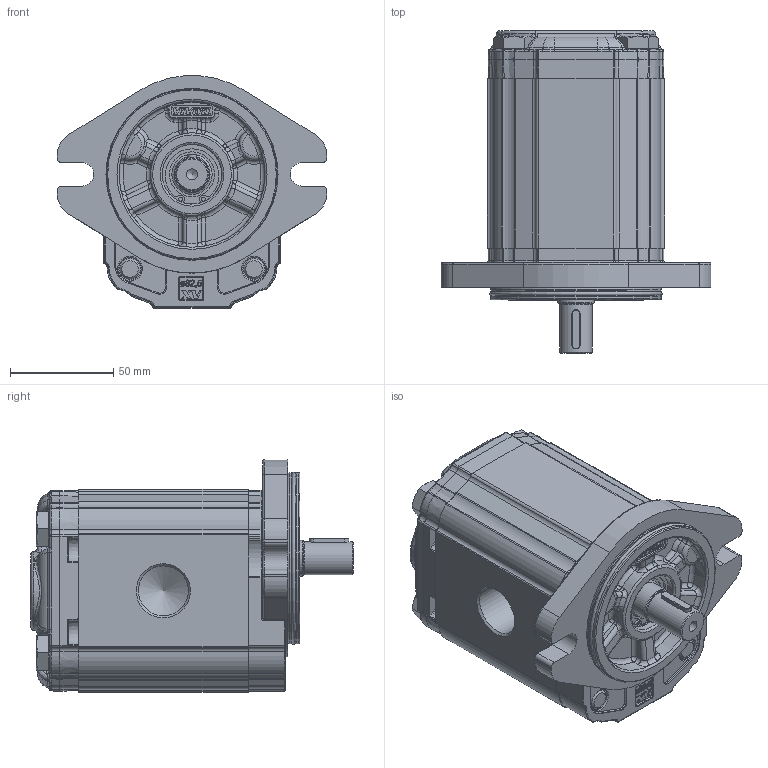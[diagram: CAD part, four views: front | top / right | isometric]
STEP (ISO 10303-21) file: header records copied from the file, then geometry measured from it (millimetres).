
FILE_DESCRIPTION(/* description */ ('Unknown'),/* implementation_level */ '2;1');
FILE_NAME(/* name */ 'X2P5751BDCA',/* time_stamp */ '2021-07-16T13:46:39+02:00',/* author */ ('Unknown'),/* organization */ ('Unknown'),/* preprocessor_version */ 'ST-DEVELOPER v16.7',/* originating_system */ 'Solid Edge',/* authorisation */ 'Unknown');
FILE_SCHEMA (('TECHNICAL_DATA_PACKAGING','AUTOMOTIVE_DESIGN {1 0 10303 214 3 1 1}'));
Products named in the file (5): X2P5751BDCA; X2P51; 2B; X2DCH82; XP219-A
Assembly tree (4 placements, depth 2):
  X2P5751BDCA
    X2P51
    2B
    X2DCH82
    XP219-A
Bounding box: 130.38 x 155.7 x 112.3 mm (x, y, z)
Volume: 898790.6 mm3; surface area: 125762 mm2
Topology: 4 solids, 6 shells, 2087 faces, 5121 edges, 3105 vertices
Faces by surface type: cylinder 623, plane 573, bspline 537, torus 243, cone 73, sphere 38
Full cylindrical faces by diameter (mm): 2 x2, 5.367 x1, 10 x4, 10.5 x4, 11 x6, 15.875 x1, 16 x4, 17.42 x1, 17.48 x2, 18.724 x1, 20.595 x1, 21.741 x1, 24.117 x1, 25.834 x1, 28.56 x1, 28.57 x1, 28.8 x1, 30.291 x1, 30.4 x1, 79.6 x2, 82.5 x2
Entity records: 88674 total; most frequent: CARTESIAN_POINT 29293, ORIENTED_EDGE 9874, DIRECTION 8251, EDGE_CURVE 4937, AXIS2_PLACEMENT_3D 3110, VERTEX_POINT 3050, FACE_BOUND 2287, EDGE_LOOP 2283
